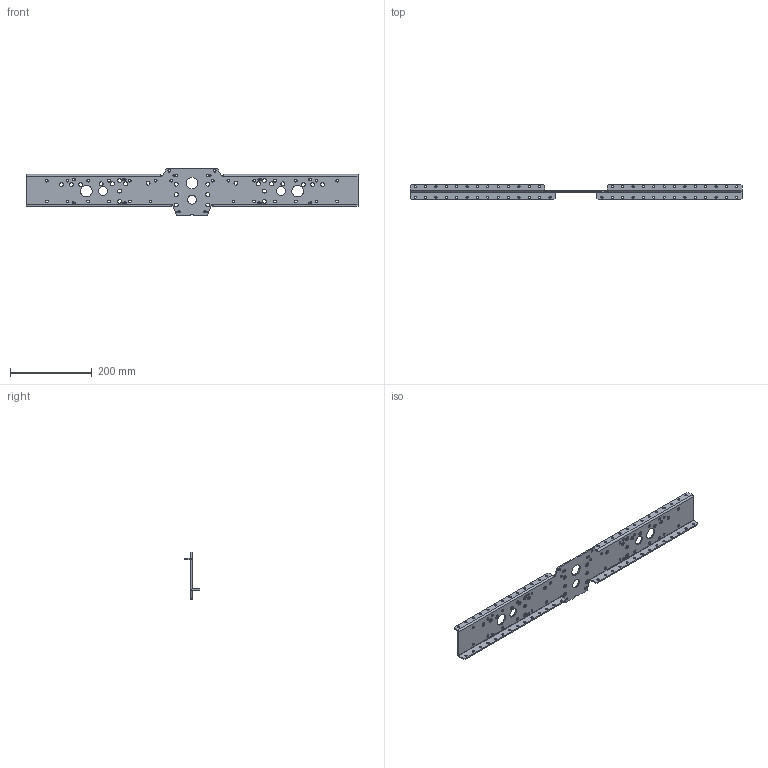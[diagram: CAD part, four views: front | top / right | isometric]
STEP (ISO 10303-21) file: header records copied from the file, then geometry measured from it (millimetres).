
FILE_DESCRIPTION(/* description */ (''),/* implementation_level */ '2;1');
FILE_NAME(/* name */ 'AM14U5 Inside Plate .step',/* time_stamp */ '2022-12-29T16:19:28-08:00',/* author */ (''),/* organization */ (''),/* preprocessor_version */ 'ST-DEVELOPER v19.2',/* originating_system */ 'Autodesk Translation Framework v11.17.0.187',/* authorisation */ '');
FILE_SCHEMA (('AUTOMOTIVE_DESIGN { 1 0 10303 214 3 1 1 }'));
Length unit declared in the file: inch
Products named in the file (1): AM14U5 Inside Plate
Bounding box: 812.8 x 38.1 x 116.33 mm (x, y, z)
Volume: 260848.8 mm3; surface area: 180387.5 mm2
Topology: 1 solids, 1 shells, 204 faces, 582 edges, 380 vertices
Faces by surface type: cylinder 157, plane 47
Full cylindrical faces by diameter (mm): 3.572 x8, 4.064 x4, 5.105 x12, 5.334 x54, 6.756 x28, 9.525 x26, 22.225 x3, 28.575 x3
Entity records: 7375 total; most frequent: DIRECTION 1306, CARTESIAN_POINT 1167, ORIENTED_EDGE 1164, EDGE_CURVE 582, AXIS2_PLACEMENT_3D 519, EDGE_LOOP 480, VERTEX_POINT 380, CIRCLE 314
